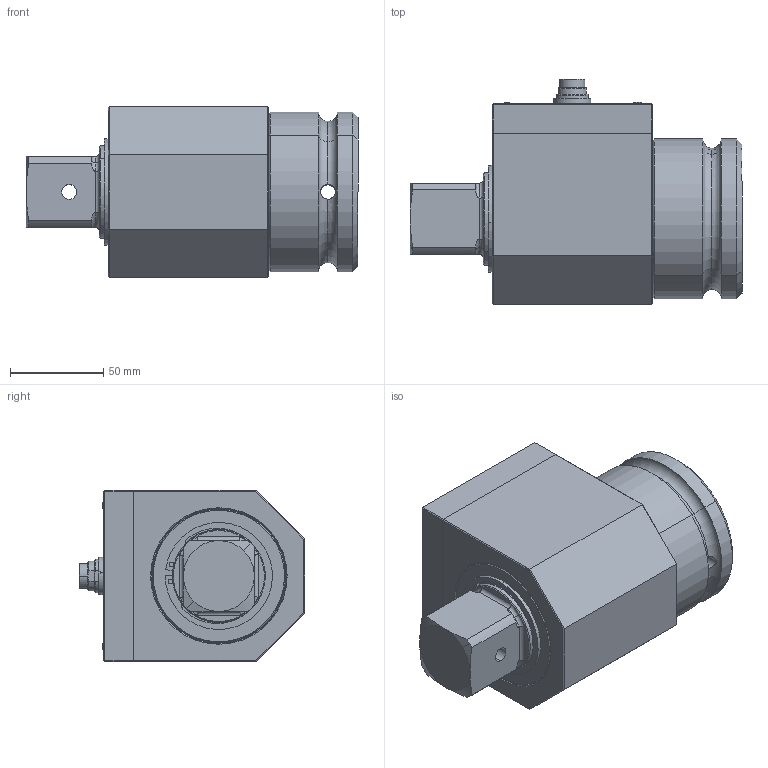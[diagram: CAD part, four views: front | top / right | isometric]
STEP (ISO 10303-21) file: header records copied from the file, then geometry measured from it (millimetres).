
FILE_DESCRIPTION (( 'STEP AP203' ), '1' );
FILE_NAME ('DRFN 1 1-2-w.STEP', '2013-02-21T11:15:28', ( 'nsi' ), ( '' ), 'SwSTEP 2.0', 'SolidWorks 2013', '' );
FILE_SCHEMA (( 'CONFIG_CONTROL_DESIGN' ));
Length unit declared in the file: millimetre
Products named in the file (1): DRFN 1 1-2-w
Bounding box: 178 x 120.8 x 92 mm (x, y, z)
Surface area: 90177 mm2 (no closed solid volume)
Topology: 0 solids, 25 shells, 276 faces, 782 edges, 518 vertices
Faces by surface type: plane 95, cylinder 62, cone 60, torus 53, sphere 4, bspline 2
Entity records: 9588 total; most frequent: CARTESIAN_POINT 2294, DIRECTION 1652, ORIENTED_EDGE 1302, EDGE_CURVE 778, AXIS2_PLACEMENT_3D 667, VERTEX_POINT 518, CIRCLE 392, LINE 318
